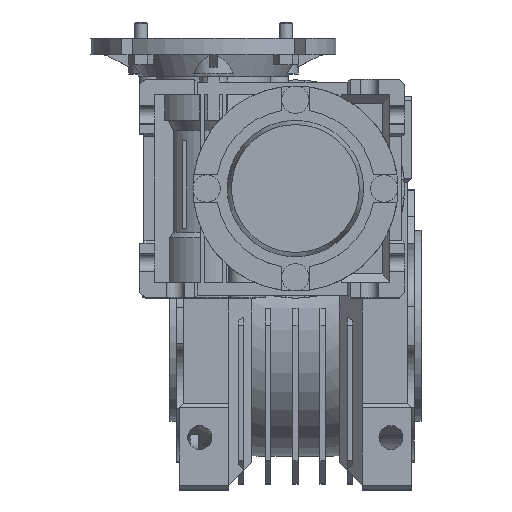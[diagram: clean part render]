
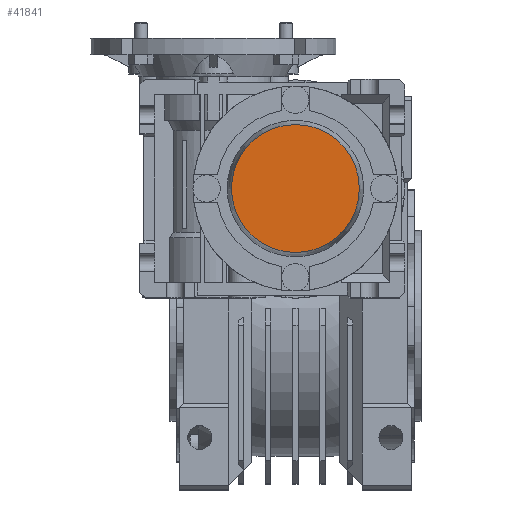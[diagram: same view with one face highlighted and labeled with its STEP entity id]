
A CAD part, top view. The second image highlights one B-rep face of the part: STEP entity #41841.
In plain terms, the highlighted planar face has unit normal (0, 0, 1) as drawn and (1, 0, 0) by its records, which use the part's own axes.
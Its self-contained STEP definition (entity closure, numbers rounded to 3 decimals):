
#1295=PLANE('',#44587);
#15762=ORIENTED_EDGE('',*,*,#20401,.T.);
#20401=EDGE_CURVE('',#23376,#23376,#24444,.T.);
#23376=VERTEX_POINT('',#62152);
#24444=CIRCLE('',#44586,23.413);
#26286=EDGE_LOOP('',(#15762));
#28244=FACE_BOUND('',#26286,.T.);
#41841=ADVANCED_FACE('',(#28244),#1295,.F.);
#44586=AXIS2_PLACEMENT_3D('',#62151,#52681,#52682);
#44587=AXIS2_PLACEMENT_3D('',#62153,#52683,#52684);
#52681=DIRECTION('',(1.,0.,0.));
#52682=DIRECTION('',(0.,0.,-1.));
#52683=DIRECTION('',(-1.,0.,0.));
#52684=DIRECTION('',(0.,0.,1.));
#62151=CARTESIAN_POINT('',(13.,0.,0.));
#62152=CARTESIAN_POINT('',(13.,0.,-23.413));
#62153=CARTESIAN_POINT('',(13.,23.413,0.));
